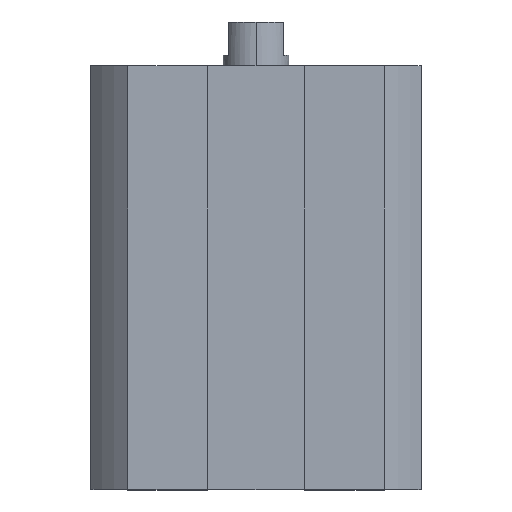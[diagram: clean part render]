
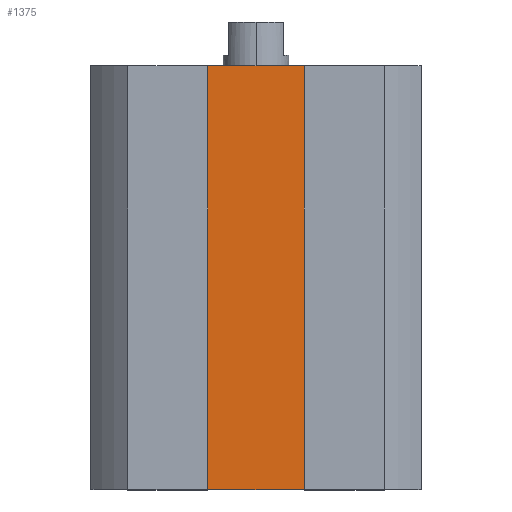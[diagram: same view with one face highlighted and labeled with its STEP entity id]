
A CAD part, top view. The second image highlights one B-rep face of the part: STEP entity #1375.
In plain terms, the highlighted planar face has unit normal (0, 0, 1).
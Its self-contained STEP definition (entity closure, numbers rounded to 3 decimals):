
#35 = VERTEX_POINT ( 'NONE', #679 ) ;
#130 = DIRECTION ( 'NONE',  ( 0., 1., 0. ) ) ;
#289 = CARTESIAN_POINT ( 'NONE',  ( 0., 0., 10. ) ) ;
#321 = VERTEX_POINT ( 'NONE', #1167 ) ;
#325 = VECTOR ( 'NONE', #1519, 1000. ) ;
#330 = VERTEX_POINT ( 'NONE', #1357 ) ;
#344 = LINE ( 'NONE', #1423, #592 ) ;
#543 = DIRECTION ( 'NONE',  ( 0., 1., 0. ) ) ;
#558 = VECTOR ( 'NONE', #1340, 1000. ) ;
#592 = VECTOR ( 'NONE', #543, 1000. ) ;
#596 = LINE ( 'NONE', #1859, #1799 ) ;
#660 = DIRECTION ( 'NONE',  ( 1., 0., 0. ) ) ;
#679 = CARTESIAN_POINT ( 'NONE',  ( 4.4, -38.5, 10. ) ) ;
#854 = VERTEX_POINT ( 'NONE', #1163 ) ;
#858 = EDGE_CURVE ( 'NONE', #330, #854, #1165, .T. ) ;
#963 = ORIENTED_EDGE ( 'NONE', *, *, #1153, .T. ) ;
#987 = PLANE ( 'NONE',  #1467 ) ;
#1011 = CARTESIAN_POINT ( 'NONE',  ( 0., -38.5, 10. ) ) ;
#1153 = EDGE_CURVE ( 'NONE', #35, #854, #596, .T. ) ;
#1163 = CARTESIAN_POINT ( 'NONE',  ( 4.4, 0., 10. ) ) ;
#1165 = LINE ( 'NONE', #289, #558 ) ;
#1167 = CARTESIAN_POINT ( 'NONE',  ( -4.4, -38.5, 10. ) ) ;
#1340 = DIRECTION ( 'NONE',  ( 1., 0., 0. ) ) ;
#1357 = CARTESIAN_POINT ( 'NONE',  ( -4.4, 0., 10. ) ) ;
#1375 = ADVANCED_FACE ( 'NONE', ( #2065 ), #987, .T. ) ;
#1386 = EDGE_CURVE ( 'NONE', #321, #35, #1767, .T. ) ;
#1423 = CARTESIAN_POINT ( 'NONE',  ( -4.4, -38.5, 10. ) ) ;
#1467 = AXIS2_PLACEMENT_3D ( 'NONE', #1540, #1868, #660 ) ;
#1519 = DIRECTION ( 'NONE',  ( 1., 0., 0. ) ) ;
#1540 = CARTESIAN_POINT ( 'NONE',  ( 0., -38.5, 10. ) ) ;
#1666 = ORIENTED_EDGE ( 'NONE', *, *, #2117, .F. ) ;
#1695 = ORIENTED_EDGE ( 'NONE', *, *, #1386, .T. ) ;
#1767 = LINE ( 'NONE', #1011, #325 ) ;
#1772 = EDGE_LOOP ( 'NONE', ( #2062, #1666, #1695, #963 ) ) ;
#1799 = VECTOR ( 'NONE', #130, 1000. ) ;
#1859 = CARTESIAN_POINT ( 'NONE',  ( 4.4, -38.5, 10. ) ) ;
#1868 = DIRECTION ( 'NONE',  ( 0., 0., 1. ) ) ;
#2062 = ORIENTED_EDGE ( 'NONE', *, *, #858, .F. ) ;
#2065 = FACE_OUTER_BOUND ( 'NONE', #1772, .T. ) ;
#2117 = EDGE_CURVE ( 'NONE', #321, #330, #344, .T. ) ;
